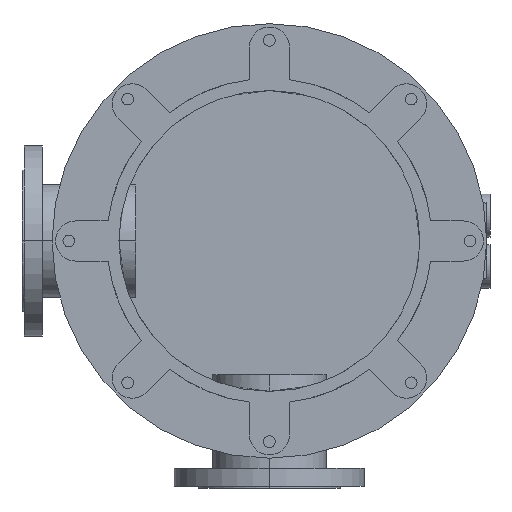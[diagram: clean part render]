
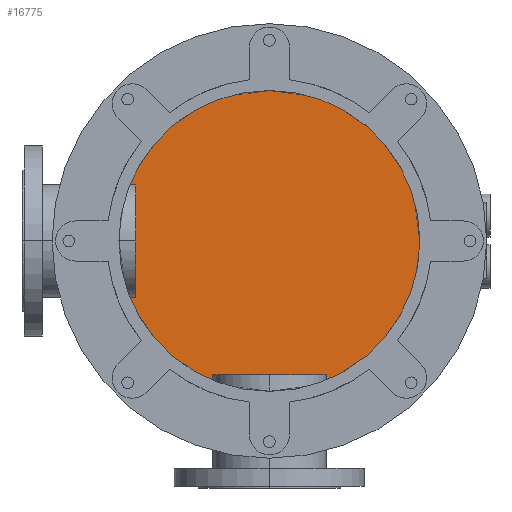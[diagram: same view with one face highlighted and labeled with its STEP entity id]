
A CAD part, front view. The second image highlights one B-rep face of the part: STEP entity #16775.
In plain terms, the highlighted planar face has unit normal (0, -1, 0).
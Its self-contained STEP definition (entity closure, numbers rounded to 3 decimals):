
#3097=CARTESIAN_POINT('',(0.,1004.,0.));
#3098=DIRECTION('',(0.,-1.,0.));
#3099=DIRECTION('',(0.,0.,1.));
#3100=AXIS2_PLACEMENT_3D('',#3097,#3098,#3099);
#3292=CARTESIAN_POINT('',(0.,1004.,0.));
#3293=DIRECTION('',(0.,-1.,0.));
#3294=DIRECTION('',(0.,0.,-1.));
#3295=AXIS2_PLACEMENT_3D('',#3292,#3293,#3294);
#9190=CARTESIAN_POINT('',(0.,1004.,240.));
#9191=CARTESIAN_POINT('',(0.,1004.,-240.));
#9192=VERTEX_POINT('',#9190);
#9193=VERTEX_POINT('',#9191);
#16766=CARTESIAN_POINT('',(0.,1004.,0.));
#16767=DIRECTION('',(0.,1.,0.));
#16768=DIRECTION('',(0.,0.,-1.));
#16769=AXIS2_PLACEMENT_3D('',#16766,#16767,#16768);
#16770=PLANE('',#16769);
#16771=ORIENTED_EDGE('',*,*,#14839,.F.);
#16772=ORIENTED_EDGE('',*,*,#14965,.F.);
#16773=EDGE_LOOP('',(#16771,#16772));
#16774=FACE_OUTER_BOUND('',#16773,.F.);
#16775=ADVANCED_FACE('',(#16774),#16770,.F.);
#3101=CIRCLE('',#3100,240.);
#3296=CIRCLE('',#3295,240.);
#14839=EDGE_CURVE('',#9192,#9193,#3101,.T.);
#14965=EDGE_CURVE('',#9193,#9192,#3296,.T.);
